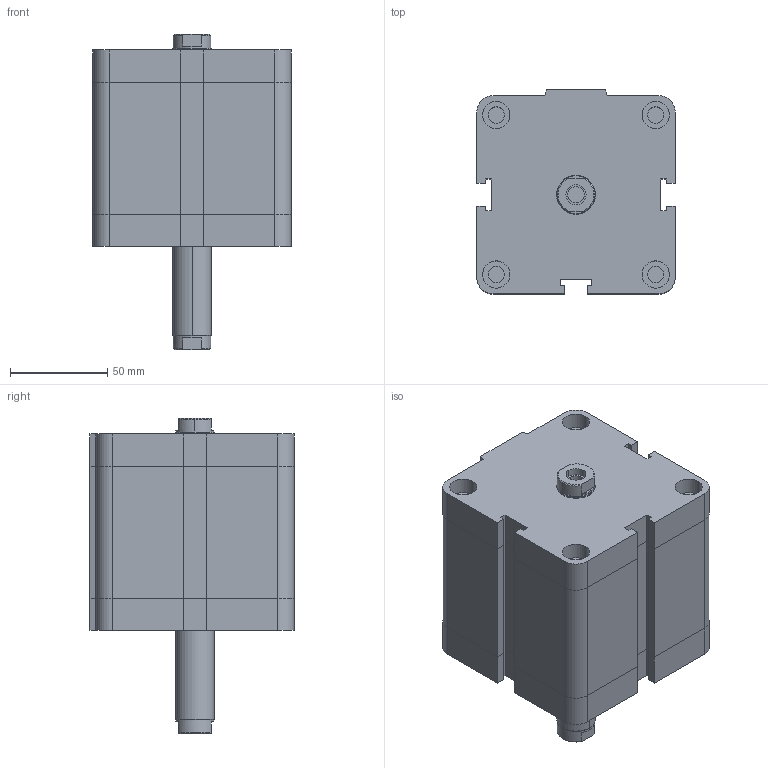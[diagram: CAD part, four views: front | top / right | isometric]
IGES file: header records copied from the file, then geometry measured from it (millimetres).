
Global section: file name: No Iges File Name specified; native system: Autodesk Inventor 2009; preprocessor: AutoDesk Inventor Iges Exporter R2009; author: maffial1; date: 20090420.200620; units: millimetre
Bounding box: 102 x 105 x 162 mm (x, y, z)
Volume: 1021653.4 mm3; surface area: 91455.8 mm2
Topology: 2 solids, 2 shells, 202 faces, 450 edges, 274 vertices
Faces by surface type: plane 114, bspline 42, revolution 20, cylinder 18, cone 8
